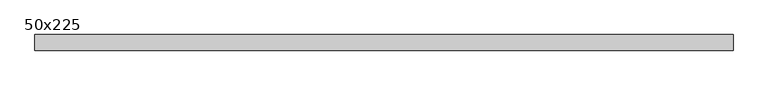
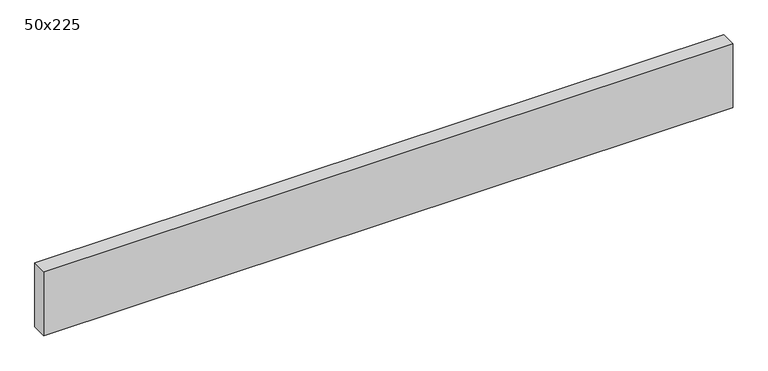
"""IFC4 building model written with IfcOpenShell, lengths in millimetres: beam geometry, Graded Timber : 50x225."""

from ifc_helpers import new_model, si_unit, frame, origin, place, context, project, spatial, polyline, outline, extrude, source, transform, mapped, element, save


def beam_50x225_9de374ac(model_context):
    return source(origin(), model_context, "Body", "SweptSolid", [
        extrude(outline(polyline([(1061.0, 25.0), (1061.0, -25.0), (-1177.0, -25.0), (-1177.0, 25.0), (1061.0, 25.0)])), frame((0.0, 0.0, -110.0), z_axis=(0.0, 0.0, 1.0), x_axis=(1.0, 0.0, 0.0)), (0.0, 0.0, 1.0), 220.0),
    ])


if __name__ == "__main__":
    model = new_model("IFC4")
    model_context = context("Model", 3, world=origin())
    ifc_project = project(units=[si_unit("LENGTHUNIT", "METRE", prefix="MILLI")], contexts=[model_context])
    site = spatial("IfcSite", under=ifc_project)
    building = spatial("IfcBuilding", under=site)
    placement = place(None, origin())
    beam_50x225_shape = beam_50x225_9de374ac(model_context)
    element("IfcBeam", 1, ObjectType="Graded Timber : 50x225", at=placement, inside=building, context=model_context, shape_type="MappedRepresentation", body=[
        mapped(beam_50x225_shape, transform((0.0, 0.0, 0.0), x_axis=(1.0, 0.0, 0.0), y_axis=(0.0, 1.0, 0.0), z_axis=(0.0, 0.0, 1.0))),
    ])
    save(model, "model.ifc")
